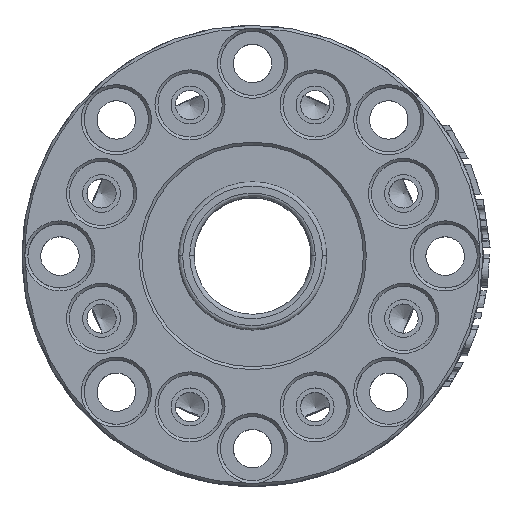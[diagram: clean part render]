
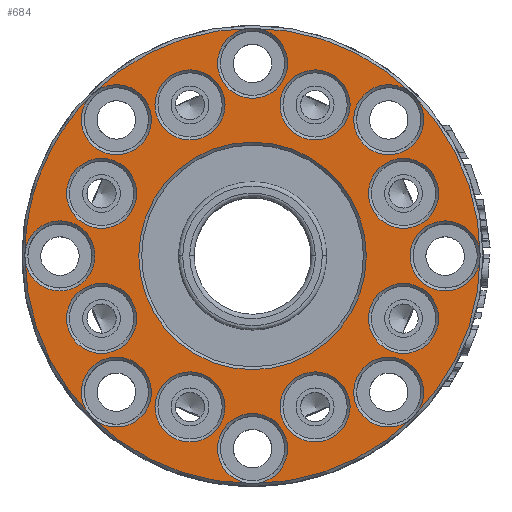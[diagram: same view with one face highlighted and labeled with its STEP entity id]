
A CAD part, top view. The second image highlights one B-rep face of the part: STEP entity #684.
In plain terms, the highlighted planar face has unit normal (0, 0, 1).
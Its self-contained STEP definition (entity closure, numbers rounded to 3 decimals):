
#300=PLANE('',#5521);
#684=ADVANCED_FACE('',(#1061,#1062,#1063,#1064,#1065,#1066,#1067,#1068,
#1069,#1070),#300,.F.);
#1061=FACE_BOUND('',#1396,.T.);
#1062=FACE_BOUND('',#1397,.T.);
#1063=FACE_BOUND('',#1398,.T.);
#1064=FACE_BOUND('',#1399,.T.);
#1065=FACE_BOUND('',#1400,.T.);
#1066=FACE_BOUND('',#1401,.T.);
#1067=FACE_BOUND('',#1402,.T.);
#1068=FACE_BOUND('',#1403,.T.);
#1069=FACE_BOUND('',#1404,.T.);
#1070=FACE_BOUND('',#1405,.T.);
#1396=EDGE_LOOP('',(#2956));
#1397=EDGE_LOOP('',(#2957));
#1398=EDGE_LOOP('',(#2958));
#1399=EDGE_LOOP('',(#2959));
#1400=EDGE_LOOP('',(#2960));
#1401=EDGE_LOOP('',(#2961));
#1402=EDGE_LOOP('',(#2962));
#1403=EDGE_LOOP('',(#2963));
#1404=EDGE_LOOP('',(#2964));
#1405=EDGE_LOOP('',(#2965,#2966,#2967,#2968,#2969,#2970,#2971,#2972,#2973,
#2974,#2975,#2976,#2977,#2978,#2979,#2980));
#2167=CIRCLE('',#5496,6.);
#2168=CIRCLE('',#5497,6.);
#2169=CIRCLE('',#5498,6.);
#2170=CIRCLE('',#5499,6.);
#2171=CIRCLE('',#5500,6.);
#2172=CIRCLE('',#5501,6.);
#2173=CIRCLE('',#5502,6.);
#2174=CIRCLE('',#5503,6.);
#2175=CIRCLE('',#5504,19.5);
#2176=CIRCLE('',#5505,39.);
#2177=CIRCLE('',#5506,6.);
#2178=CIRCLE('',#5507,39.);
#2179=CIRCLE('',#5508,6.);
#2180=CIRCLE('',#5509,39.);
#2181=CIRCLE('',#5510,6.);
#2182=CIRCLE('',#5511,39.);
#2183=CIRCLE('',#5512,6.);
#2184=CIRCLE('',#5513,39.);
#2185=CIRCLE('',#5514,6.);
#2186=CIRCLE('',#5515,39.);
#2187=CIRCLE('',#5516,6.);
#2188=CIRCLE('',#5517,39.);
#2189=CIRCLE('',#5518,6.);
#2190=CIRCLE('',#5519,39.);
#2191=CIRCLE('',#5520,6.);
#2956=ORIENTED_EDGE('',*,*,#4571,.F.);
#2957=ORIENTED_EDGE('',*,*,#4572,.F.);
#2958=ORIENTED_EDGE('',*,*,#4573,.F.);
#2959=ORIENTED_EDGE('',*,*,#4574,.F.);
#2960=ORIENTED_EDGE('',*,*,#4575,.F.);
#2961=ORIENTED_EDGE('',*,*,#4576,.F.);
#2962=ORIENTED_EDGE('',*,*,#4577,.F.);
#2963=ORIENTED_EDGE('',*,*,#4578,.F.);
#2964=ORIENTED_EDGE('',*,*,#4579,.F.);
#2965=ORIENTED_EDGE('',*,*,#4580,.T.);
#2966=ORIENTED_EDGE('',*,*,#4581,.F.);
#2967=ORIENTED_EDGE('',*,*,#4582,.T.);
#2968=ORIENTED_EDGE('',*,*,#4583,.F.);
#2969=ORIENTED_EDGE('',*,*,#4584,.T.);
#2970=ORIENTED_EDGE('',*,*,#4585,.F.);
#2971=ORIENTED_EDGE('',*,*,#4586,.T.);
#2972=ORIENTED_EDGE('',*,*,#4587,.F.);
#2973=ORIENTED_EDGE('',*,*,#4588,.T.);
#2974=ORIENTED_EDGE('',*,*,#4589,.F.);
#2975=ORIENTED_EDGE('',*,*,#4590,.T.);
#2976=ORIENTED_EDGE('',*,*,#4591,.F.);
#2977=ORIENTED_EDGE('',*,*,#4592,.T.);
#2978=ORIENTED_EDGE('',*,*,#4593,.F.);
#2979=ORIENTED_EDGE('',*,*,#4594,.T.);
#2980=ORIENTED_EDGE('',*,*,#4595,.F.);
#3976=VERTEX_POINT('',#9128);
#3977=VERTEX_POINT('',#9130);
#3978=VERTEX_POINT('',#9132);
#3979=VERTEX_POINT('',#9134);
#3980=VERTEX_POINT('',#9136);
#3981=VERTEX_POINT('',#9138);
#3982=VERTEX_POINT('',#9140);
#3983=VERTEX_POINT('',#9142);
#3984=VERTEX_POINT('',#9144);
#3985=VERTEX_POINT('',#9146);
#3986=VERTEX_POINT('',#9147);
#3987=VERTEX_POINT('',#9150);
#3988=VERTEX_POINT('',#9153);
#3989=VERTEX_POINT('',#9156);
#3990=VERTEX_POINT('',#9159);
#3991=VERTEX_POINT('',#9162);
#3992=VERTEX_POINT('',#9165);
#4571=EDGE_CURVE('',#3976,#3976,#2167,.T.);
#4572=EDGE_CURVE('',#3977,#3977,#2168,.T.);
#4573=EDGE_CURVE('',#3978,#3978,#2169,.T.);
#4574=EDGE_CURVE('',#3979,#3979,#2170,.T.);
#4575=EDGE_CURVE('',#3980,#3980,#2171,.T.);
#4576=EDGE_CURVE('',#3981,#3981,#2172,.T.);
#4577=EDGE_CURVE('',#3982,#3982,#2173,.T.);
#4578=EDGE_CURVE('',#3983,#3983,#2174,.T.);
#4579=EDGE_CURVE('',#3984,#3984,#2175,.T.);
#4580=EDGE_CURVE('',#3985,#3986,#2176,.T.);
#4581=EDGE_CURVE('',#3986,#3986,#2177,.T.);
#4582=EDGE_CURVE('',#3986,#3987,#2178,.T.);
#4583=EDGE_CURVE('',#3987,#3987,#2179,.T.);
#4584=EDGE_CURVE('',#3987,#3988,#2180,.T.);
#4585=EDGE_CURVE('',#3988,#3988,#2181,.T.);
#4586=EDGE_CURVE('',#3988,#3989,#2182,.T.);
#4587=EDGE_CURVE('',#3989,#3989,#2183,.T.);
#4588=EDGE_CURVE('',#3989,#3990,#2184,.T.);
#4589=EDGE_CURVE('',#3990,#3990,#2185,.T.);
#4590=EDGE_CURVE('',#3990,#3991,#2186,.T.);
#4591=EDGE_CURVE('',#3991,#3991,#2187,.T.);
#4592=EDGE_CURVE('',#3991,#3992,#2188,.T.);
#4593=EDGE_CURVE('',#3992,#3992,#2189,.T.);
#4594=EDGE_CURVE('',#3992,#3985,#2190,.T.);
#4595=EDGE_CURVE('',#3985,#3985,#2191,.T.);
#5496=AXIS2_PLACEMENT_3D('',#9127,#6475,#6476);
#5497=AXIS2_PLACEMENT_3D('',#9129,#6477,#6478);
#5498=AXIS2_PLACEMENT_3D('',#9131,#6479,#6480);
#5499=AXIS2_PLACEMENT_3D('',#9133,#6481,#6482);
#5500=AXIS2_PLACEMENT_3D('',#9135,#6483,#6484);
#5501=AXIS2_PLACEMENT_3D('',#9137,#6485,#6486);
#5502=AXIS2_PLACEMENT_3D('',#9139,#6487,#6488);
#5503=AXIS2_PLACEMENT_3D('',#9141,#6489,#6490);
#5504=AXIS2_PLACEMENT_3D('',#9143,#6491,#6492);
#5505=AXIS2_PLACEMENT_3D('',#9145,#6493,#6494);
#5506=AXIS2_PLACEMENT_3D('',#9148,#6495,#6496);
#5507=AXIS2_PLACEMENT_3D('',#9149,#6497,#6498);
#5508=AXIS2_PLACEMENT_3D('',#9151,#6499,#6500);
#5509=AXIS2_PLACEMENT_3D('',#9152,#6501,#6502);
#5510=AXIS2_PLACEMENT_3D('',#9154,#6503,#6504);
#5511=AXIS2_PLACEMENT_3D('',#9155,#6505,#6506);
#5512=AXIS2_PLACEMENT_3D('',#9157,#6507,#6508);
#5513=AXIS2_PLACEMENT_3D('',#9158,#6509,#6510);
#5514=AXIS2_PLACEMENT_3D('',#9160,#6511,#6512);
#5515=AXIS2_PLACEMENT_3D('',#9161,#6513,#6514);
#5516=AXIS2_PLACEMENT_3D('',#9163,#6515,#6516);
#5517=AXIS2_PLACEMENT_3D('',#9164,#6517,#6518);
#5518=AXIS2_PLACEMENT_3D('',#9166,#6519,#6520);
#5519=AXIS2_PLACEMENT_3D('',#9167,#6521,#6522);
#5520=AXIS2_PLACEMENT_3D('',#9168,#6523,#6524);
#5521=AXIS2_PLACEMENT_3D('',#9169,#6525,#6526);
#6475=DIRECTION('',(0.,0.,1.));
#6476=DIRECTION('',(1.,0.,0.));
#6477=DIRECTION('',(0.,0.,1.));
#6478=DIRECTION('',(1.,0.,0.));
#6479=DIRECTION('',(0.,0.,1.));
#6480=DIRECTION('',(1.,0.,0.));
#6481=DIRECTION('',(0.,0.,1.));
#6482=DIRECTION('',(1.,0.,0.));
#6483=DIRECTION('',(0.,0.,1.));
#6484=DIRECTION('',(1.,0.,0.));
#6485=DIRECTION('',(0.,0.,1.));
#6486=DIRECTION('',(1.,0.,0.));
#6487=DIRECTION('',(0.,0.,1.));
#6488=DIRECTION('',(1.,0.,0.));
#6489=DIRECTION('',(0.,0.,1.));
#6490=DIRECTION('',(1.,0.,0.));
#6491=DIRECTION('',(0.,0.,1.));
#6492=DIRECTION('',(1.,0.,0.));
#6493=DIRECTION('',(0.,0.,1.));
#6494=DIRECTION('',(-1.,0.,0.));
#6495=DIRECTION('',(0.,0.,1.));
#6496=DIRECTION('',(1.,0.,0.));
#6497=DIRECTION('',(0.,0.,1.));
#6498=DIRECTION('',(-1.,0.,0.));
#6499=DIRECTION('',(0.,0.,1.));
#6500=DIRECTION('',(1.,0.,0.));
#6501=DIRECTION('',(0.,0.,1.));
#6502=DIRECTION('',(-1.,0.,0.));
#6503=DIRECTION('',(0.,0.,1.));
#6504=DIRECTION('',(1.,0.,0.));
#6505=DIRECTION('',(0.,0.,1.));
#6506=DIRECTION('',(-1.,0.,0.));
#6507=DIRECTION('',(0.,0.,1.));
#6508=DIRECTION('',(1.,0.,0.));
#6509=DIRECTION('',(0.,0.,1.));
#6510=DIRECTION('',(-1.,0.,0.));
#6511=DIRECTION('',(0.,0.,1.));
#6512=DIRECTION('',(1.,0.,0.));
#6513=DIRECTION('',(0.,0.,1.));
#6514=DIRECTION('',(-1.,0.,0.));
#6515=DIRECTION('',(0.,0.,1.));
#6516=DIRECTION('',(1.,0.,0.));
#6517=DIRECTION('',(0.,0.,1.));
#6518=DIRECTION('',(-1.,0.,0.));
#6519=DIRECTION('',(0.,0.,1.));
#6520=DIRECTION('',(1.,0.,0.));
#6521=DIRECTION('',(0.,0.,1.));
#6522=DIRECTION('',(-1.,0.,0.));
#6523=DIRECTION('',(0.,0.,1.));
#6524=DIRECTION('',(1.,0.,0.));
#6525=DIRECTION('',(0.,0.,-1.));
#6526=DIRECTION('',(1.,0.,0.));
#9127=CARTESIAN_POINT('',(-10.715,25.869,9.));
#9128=CARTESIAN_POINT('',(-4.715,25.869,9.));
#9129=CARTESIAN_POINT('',(-25.869,10.715,9.));
#9130=CARTESIAN_POINT('',(-19.869,10.715,9.));
#9131=CARTESIAN_POINT('',(-25.869,-10.715,9.));
#9132=CARTESIAN_POINT('',(-19.869,-10.715,9.));
#9133=CARTESIAN_POINT('',(-10.715,-25.869,9.));
#9134=CARTESIAN_POINT('',(-4.715,-25.869,9.));
#9135=CARTESIAN_POINT('',(10.715,-25.869,9.));
#9136=CARTESIAN_POINT('',(16.715,-25.869,9.));
#9137=CARTESIAN_POINT('',(25.869,-10.715,9.));
#9138=CARTESIAN_POINT('',(31.869,-10.715,9.));
#9139=CARTESIAN_POINT('',(25.869,10.715,9.));
#9140=CARTESIAN_POINT('',(31.869,10.715,9.));
#9141=CARTESIAN_POINT('',(10.715,25.869,9.));
#9142=CARTESIAN_POINT('',(16.715,25.869,9.));
#9143=CARTESIAN_POINT('',(0.,0.,9.));
#9144=CARTESIAN_POINT('',(19.5,0.,9.));
#9145=CARTESIAN_POINT('',(0.,0.,9.));
#9146=CARTESIAN_POINT('',(39.,0.,9.));
#9147=CARTESIAN_POINT('',(27.577,27.577,9.));
#9148=CARTESIAN_POINT('',(23.335,23.335,9.));
#9149=CARTESIAN_POINT('',(0.,0.,9.));
#9150=CARTESIAN_POINT('',(0.,39.,9.));
#9151=CARTESIAN_POINT('',(0.,33.,9.));
#9152=CARTESIAN_POINT('',(0.,0.,9.));
#9153=CARTESIAN_POINT('',(-27.577,27.577,9.));
#9154=CARTESIAN_POINT('',(-23.335,23.335,9.));
#9155=CARTESIAN_POINT('',(0.,0.,9.));
#9156=CARTESIAN_POINT('',(-39.,0.,9.));
#9157=CARTESIAN_POINT('',(-33.,0.,9.));
#9158=CARTESIAN_POINT('',(0.,0.,9.));
#9159=CARTESIAN_POINT('',(-27.577,-27.577,9.));
#9160=CARTESIAN_POINT('',(-23.335,-23.335,9.));
#9161=CARTESIAN_POINT('',(0.,0.,9.));
#9162=CARTESIAN_POINT('',(0.,-39.,9.));
#9163=CARTESIAN_POINT('',(0.,-33.,9.));
#9164=CARTESIAN_POINT('',(0.,0.,9.));
#9165=CARTESIAN_POINT('',(27.577,-27.577,9.));
#9166=CARTESIAN_POINT('',(23.335,-23.335,9.));
#9167=CARTESIAN_POINT('',(0.,0.,9.));
#9168=CARTESIAN_POINT('',(33.,0.,9.));
#9169=CARTESIAN_POINT('',(39.468,-39.468,9.));
